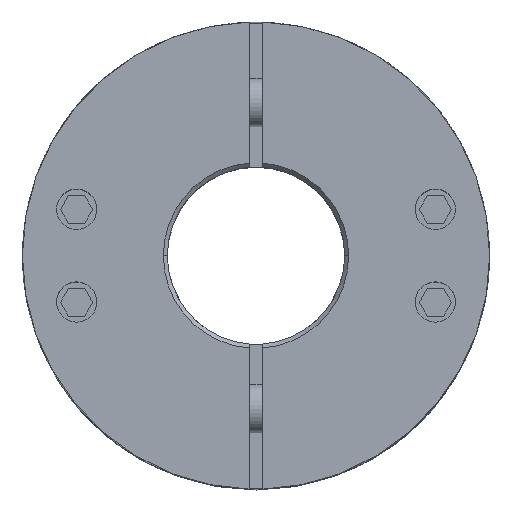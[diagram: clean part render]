
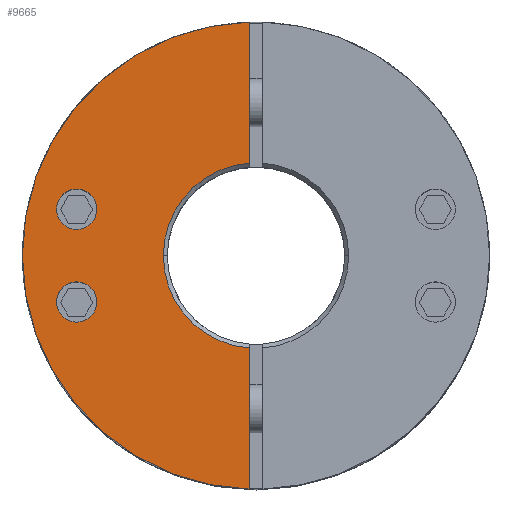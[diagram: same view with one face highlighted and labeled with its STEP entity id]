
A CAD part, top view. The second image highlights one B-rep face of the part: STEP entity #9665.
In plain terms, the highlighted planar face has unit normal (0, 0, 1).
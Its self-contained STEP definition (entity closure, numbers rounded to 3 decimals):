
#2545=CARTESIAN_POINT('',(-19.767,-5.759,27.125));
#2546=VERTEX_POINT('',#2545);
#2555=CARTESIAN_POINT('',(-24.767,-5.759,27.125));
#2556=VERTEX_POINT('',#2555);
#2557=CARTESIAN_POINT('',(-22.267,-5.759,27.125));
#2558=DIRECTION('',(0.0,0.0,-1.0));
#2559=DIRECTION('',(1.0,0.0,0.0));
#2560=AXIS2_PLACEMENT_3D('',#2557,#2558,#2559);
#2561=CIRCLE('',#2560,2.5);
#2562=EDGE_CURVE('',#2556,#2546,#2561,.T.);
#2671=CARTESIAN_POINT('',(-19.767,5.759,27.125));
#2672=VERTEX_POINT('',#2671);
#2681=CARTESIAN_POINT('',(-24.767,5.759,27.125));
#2682=VERTEX_POINT('',#2681);
#2683=CARTESIAN_POINT('',(-22.267,5.759,27.125));
#2684=DIRECTION('',(0.0,0.0,-1.0));
#2685=DIRECTION('',(1.0,0.0,0.0));
#2686=AXIS2_PLACEMENT_3D('',#2683,#2684,#2685);
#2687=CIRCLE('',#2686,2.5);
#2688=EDGE_CURVE('',#2682,#2672,#2687,.T.);
#2900=CARTESIAN_POINT('',(-29.0,0.,27.125));
#2901=VERTEX_POINT('',#2900);
#2908=CARTESIAN_POINT('',(-0.75,28.99,27.125));
#2909=VERTEX_POINT('',#2908);
#2910=CARTESIAN_POINT('',(0.0,0.0,27.125));
#2911=DIRECTION('',(0.0,0.0,-1.0));
#2912=DIRECTION('',(1.0,0.0,0.0));
#2913=AXIS2_PLACEMENT_3D('',#2910,#2911,#2912);
#2914=CIRCLE('',#2913,29.0);
#2915=EDGE_CURVE('',#2901,#2909,#2914,.T.);
#3262=CARTESIAN_POINT('',(-11.5,0.,27.125));
#3263=VERTEX_POINT('',#3262);
#3279=CARTESIAN_POINT('',(-0.75,11.476,27.125));
#3280=VERTEX_POINT('',#3279);
#3294=CARTESIAN_POINT('',(0.0,0.0,27.125));
#3295=DIRECTION('',(0.0,0.0,1.0));
#3296=DIRECTION('',(-1.0,0.0,0.0));
#3297=AXIS2_PLACEMENT_3D('',#3294,#3295,#3296);
#3298=CIRCLE('',#3297,11.5);
#3299=EDGE_CURVE('',#3280,#3263,#3298,.T.);
#9418=CARTESIAN_POINT('',(-0.75,-11.476,27.125));
#9419=VERTEX_POINT('',#9418);
#9420=CARTESIAN_POINT('',(0.0,0.0,27.125));
#9421=DIRECTION('',(0.0,0.0,1.0));
#9422=DIRECTION('',(-1.0,0.0,0.0));
#9423=AXIS2_PLACEMENT_3D('',#9420,#9421,#9422);
#9424=CIRCLE('',#9423,11.5);
#9425=EDGE_CURVE('',#3263,#9419,#9424,.T.);
#9458=CARTESIAN_POINT('',(-0.75,11.476,27.125));
#9459=DIRECTION('',(0.0,1.0,0.0));
#9460=VECTOR('',#9459,17.515);
#9461=LINE('',#9458,#9460);
#9462=EDGE_CURVE('',#3280,#2909,#9461,.T.);
#9572=CARTESIAN_POINT('',(-0.75,-28.99,27.125));
#9573=VERTEX_POINT('',#9572);
#9574=CARTESIAN_POINT('',(-0.75,-28.99,27.125));
#9575=DIRECTION('',(0.0,1.0,0.0));
#9576=VECTOR('',#9575,17.515);
#9577=LINE('',#9574,#9576);
#9578=EDGE_CURVE('',#9573,#9419,#9577,.T.);
#9626=CARTESIAN_POINT('',(2.636,0.,27.125));
#9627=DIRECTION('',(0.0,0.0,1.0));
#9628=DIRECTION('',(1.0,0.0,0.0));
#9629=AXIS2_PLACEMENT_3D('',#9626,#9627,#9628);
#9630=PLANE('',#9629);
#9631=ORIENTED_EDGE('',*,*,#3299,.F.);
#9632=ORIENTED_EDGE('',*,*,#9462,.T.);
#9633=ORIENTED_EDGE('',*,*,#2915,.F.);
#9634=CARTESIAN_POINT('',(0.0,0.0,27.125));
#9635=DIRECTION('',(0.0,0.0,-1.0));
#9636=DIRECTION('',(1.0,0.0,0.0));
#9637=AXIS2_PLACEMENT_3D('',#9634,#9635,#9636);
#9638=CIRCLE('',#9637,29.0);
#9639=EDGE_CURVE('',#9573,#2901,#9638,.T.);
#9640=ORIENTED_EDGE('',*,*,#9639,.F.);
#9641=ORIENTED_EDGE('',*,*,#9578,.T.);
#9642=ORIENTED_EDGE('',*,*,#9425,.F.);
#9643=EDGE_LOOP('',(#9631,#9632,#9633,#9640,#9641,#9642));
#9644=FACE_OUTER_BOUND('',#9643,.T.);
#9645=CARTESIAN_POINT('',(-22.267,-5.759,27.125));
#9646=DIRECTION('',(0.0,0.0,-1.0));
#9647=DIRECTION('',(1.0,0.0,0.0));
#9648=AXIS2_PLACEMENT_3D('',#9645,#9646,#9647);
#9649=CIRCLE('',#9648,2.5);
#9650=EDGE_CURVE('',#2546,#2556,#9649,.T.);
#9651=ORIENTED_EDGE('',*,*,#9650,.T.);
#9652=ORIENTED_EDGE('',*,*,#2562,.T.);
#9653=EDGE_LOOP('',(#9651,#9652));
#9654=FACE_BOUND('',#9653,.T.);
#9655=CARTESIAN_POINT('',(-22.267,5.759,27.125));
#9656=DIRECTION('',(0.0,0.0,-1.0));
#9657=DIRECTION('',(1.0,0.0,0.0));
#9658=AXIS2_PLACEMENT_3D('',#9655,#9656,#9657);
#9659=CIRCLE('',#9658,2.5);
#9660=EDGE_CURVE('',#2672,#2682,#9659,.T.);
#9661=ORIENTED_EDGE('',*,*,#9660,.T.);
#9662=ORIENTED_EDGE('',*,*,#2688,.T.);
#9663=EDGE_LOOP('',(#9661,#9662));
#9664=FACE_BOUND('',#9663,.T.);
#9665=ADVANCED_FACE('',(#9644,#9654,#9664),#9630,.T.);
